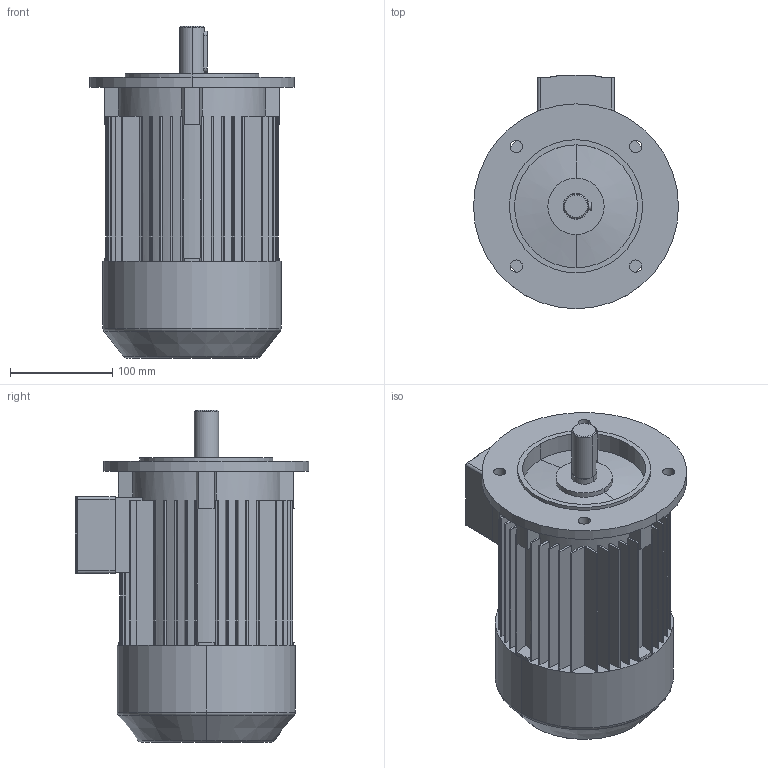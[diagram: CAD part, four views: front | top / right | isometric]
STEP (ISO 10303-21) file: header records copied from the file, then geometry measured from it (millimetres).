
FILE_DESCRIPTION((''),'2;1');
FILE_NAME('1LA7090-2AA11_PRT','2002-04-12T',('martin könig'),(''),'PRO/ENGINEER BY PARAMETRIC TECHNOLOGY CORPORATION, 2002030','PRO/ENGINEER BY PARAMETRIC TECHNOLOGY CORPORATION, 2002030','');
FILE_SCHEMA(('CONFIG_CONTROL_DESIGN'));
Length unit declared in the file: millimetre
Products named in the file (1): 1LA7090-2AA11_PRT
Bounding box: 200 x 228 x 324 mm (x, y, z)
Volume: 5617108.8 mm3; surface area: 372386.4 mm2
Topology: 1 solids, 1 shells, 273 faces, 766 edges, 504 vertices
Faces by surface type: plane 171, cylinder 92, cone 6, torus 4
Entity records: 8921 total; most frequent: CARTESIAN_POINT 1574, DIRECTION 1570, ORIENTED_EDGE 1532, EDGE_CURVE 766, AXIS2_PLACEMENT_3D 533, VECTOR 504, LINE 504, VERTEX_POINT 504
